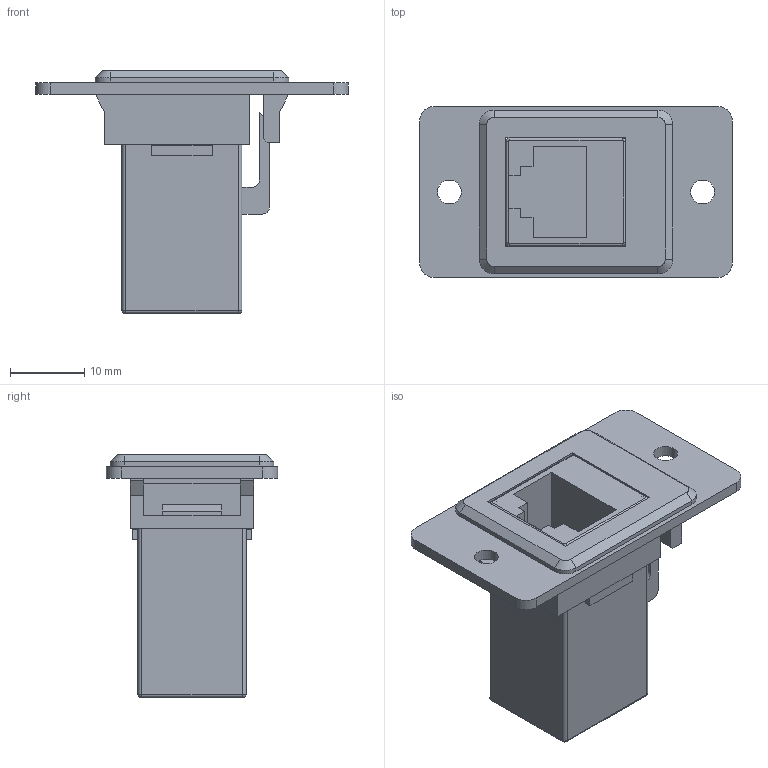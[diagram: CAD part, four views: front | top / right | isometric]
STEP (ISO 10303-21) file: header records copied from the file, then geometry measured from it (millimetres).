
FILE_DESCRIPTION(('FreeCAD Model'),'2;1');
FILE_NAME('Open CASCADE Shape Model','2026-05-19T14:35:25',(''),(''), 'Open CASCADE STEP processor 7.8','FreeCAD','Unknown');
FILE_SCHEMA(('AUTOMOTIVE_DESIGN { 1 0 10303 214 1 1 1 1 }'));
Length unit declared in the file: millimetre
Products named in the file (5): Unnamed; PMBZL_SL; SIM-BZALPL-SL; 3013BUS12xx; FA-396-8-C6-BK
Assembly tree (4 placements, depth 3):
  Unnamed
    PMBZL_SL
      SIM-BZALPL-SL
      3013BUS12xx
    FA-396-8-C6-BK
Bounding box: 42 x 23 x 32.52 mm (x, y, z)
Volume: 7538.4 mm3; surface area: 7074.1 mm2
Topology: 3 solids, 3 shells, 166 faces, 451 edges, 290 vertices
Faces by surface type: plane 67, bspline 67, cylinder 24, revolution 8
Full cylindrical faces by diameter (mm): 3.2 x2
Entity records: 6120 total; most frequent: CARTESIAN_POINT 2381, ORIENTED_EDGE 894, DIRECTION 507, EDGE_CURVE 447, VERTEX_POINT 290, B_SPLINE_CURVE_WITH_KNOTS 204, LINE 195, VECTOR 195
